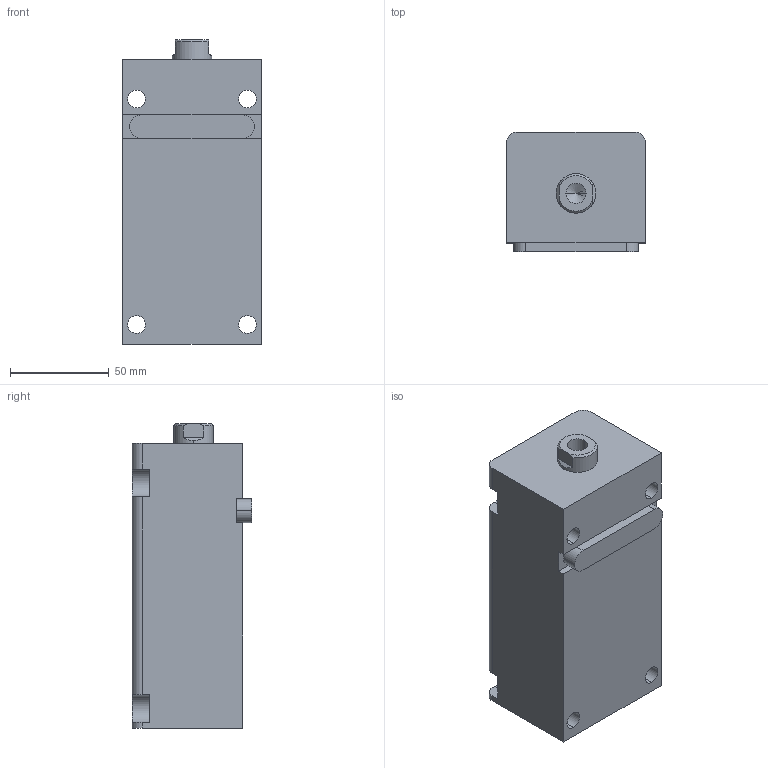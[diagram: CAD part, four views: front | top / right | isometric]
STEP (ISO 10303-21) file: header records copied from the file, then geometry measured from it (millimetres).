
FILE_DESCRIPTION (( 'STEP AP203' ), '1' );
FILE_NAME ('HTB-LA32-90N.STEP', '2019-10-09T06:31:58', ( '微软用户' ), ( '微软中国' ), 'SwSTEP 2.0', 'SolidWorks 2012', '' );
FILE_SCHEMA (( 'CONFIG_CONTROL_DESIGN' ));
Length unit declared in the file: millimetre
Products named in the file (4): HTB-LA32-90掛极; HTB-LA32-90N活塞杆; HTB-LA32-瑩; HTB-LA32-90N
Assembly tree (3 placements, depth 2):
  HTB-LA32-90N
    HTB-LA32-90掛极
    HTB-LA32-90N活塞杆
    HTB-LA32-瑩
Bounding box: 70 x 60.5 x 154 mm (x, y, z)
Volume: 503374 mm3; surface area: 77996 mm2
Topology: 3 solids, 3 shells, 88 faces, 217 edges, 141 vertices
Faces by surface type: plane 39, cylinder 35, cone 8, torus 6
Entity records: 3053 total; most frequent: DIRECTION 487, CARTESIAN_POINT 478, ORIENTED_EDGE 430, EDGE_CURVE 215, AXIS2_PLACEMENT_3D 186, VERTEX_POINT 141, LINE 115, VECTOR 115
